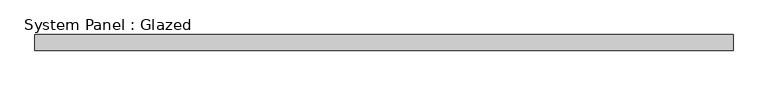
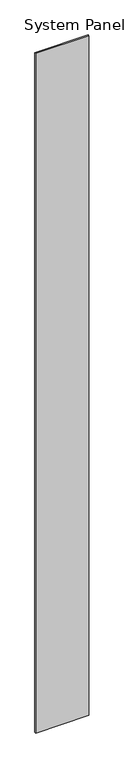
"""IFC4 building model written with IfcOpenShell, lengths in millimetres: plate geometry, System Panel : Glazed."""

import ifcopenshell
import ifcopenshell.guid

model = None  # the IFC model being written
_history = None  # IfcOwnerHistory: only IFC2X3 demands one
_inside = {}  # id of a spatial element -> (the spatial element, [elements in it])
_under = {}  # id of a project, library or spatial element -> (it, [spatial elements below it])
_declared = {}  # id of a project -> (the project, [libraries it declares])
_typed = {}  # id of a type object -> (the type object, [elements of that type])
_made_of = {}  # id of a material, layer set ... -> (it, [elements and type objects made of it])


def new_model(schema):
    """Start an empty IFC model of exactly this schema.

    Asked for "IFC4X3", IfcOpenShell would pick the latest addendum, in which some entities
    have other attributes; the version numbers below select the first issue.
    IFC2X3 requires an IfcOwnerHistory on every rooted entity: one is made here for all.
    """
    global model, _history
    if schema == "IFC4X3":
        model = ifcopenshell.file(schema_version=(4, 3, 0, 0))
    else:
        model = ifcopenshell.file(schema=schema)
    _inside.clear()
    _under.clear()
    _declared.clear()
    _typed.clear()
    _made_of.clear()
    _history = None
    if model.schema == "IFC2X3":
        org = make("IfcOrganization", Name="unknown")
        user = make(
            "IfcPersonAndOrganization",
            ThePerson=make("IfcPerson", FamilyName="unknown"),
            TheOrganization=org,
        )
        app = make(
            "IfcApplication",
            ApplicationDeveloper=org,
            Version="unknown",
            ApplicationFullName="unknown",
            ApplicationIdentifier="unknown",
        )
        _history = make(
            "IfcOwnerHistory",
            OwningUser=user,
            OwningApplication=app,
            ChangeAction="ADDED",
            CreationDate=0,
        )
    return model


def make(cls, **values):
    """One entity of the class cls with the attributes given. An attribute that is None is left unset."""
    return model.create_entity(
        cls, **{name: value for name, value in values.items() if value is not None}
    )


def rooted(cls, **values):
    """An entity with a GlobalId (a new one), such as an element, a storey or a relation."""
    return make(cls, GlobalId=ifcopenshell.guid.new(), OwnerHistory=_history, **values)


def si_unit(unit_type, name, prefix=None):
    """IfcSIUnit, for example si_unit("LENGTHUNIT", "METRE", prefix="MILLI")."""
    return make("IfcSIUnit", UnitType=unit_type, Prefix=prefix, Name=name)


def assignment(units):
    """IfcUnitAssignment: the units of a project."""
    return None if units is None else make("IfcUnitAssignment", Units=units)


def point(xyz):
    """IfcCartesianPoint."""
    return None if xyz is None else make("IfcCartesianPoint", Coordinates=xyz)


def direction(xyz):
    """IfcDirection."""
    return None if xyz is None else make("IfcDirection", DirectionRatios=xyz)


def frame(location, z_axis=None, x_axis=None):
    """IfcAxis2Placement3D, a coordinate frame: its origin and axes. An axis left out is left unset."""
    return make(
        "IfcAxis2Placement3D",
        Location=point(location),
        Axis=direction(z_axis),
        RefDirection=direction(x_axis),
    )


def origin():
    """The frame at (0, 0, 0) with its axes left unset."""
    return frame((0.0, 0.0, 0.0))


def origin_with_axes():
    """The frame at (0, 0, 0) with the z axis (0, 0, 1) and the x axis (1, 0, 0) written out."""
    return frame((0.0, 0.0, 0.0), z_axis=(0.0, 0.0, 1.0), x_axis=(1.0, 0.0, 0.0))


def place(relative_to, where):
    """IfcLocalPlacement: puts the frame where relative to a parent placement (None: the world)."""
    return make(
        "IfcLocalPlacement", PlacementRelTo=relative_to, RelativePlacement=where
    )


def context(
    kind, dimensions, precision=None, world=None, true_north=None, identifier=None
):
    """IfcGeometricRepresentationContext, for example the 3D "Model" context."""
    return make(
        "IfcGeometricRepresentationContext",
        ContextIdentifier=identifier,
        ContextType=kind,
        CoordinateSpaceDimension=dimensions,
        Precision=precision,
        WorldCoordinateSystem=world,
        TrueNorth=true_north,
    )


def project(units=None, contexts=None):
    """IfcProject with its units and contexts."""
    return rooted(
        "IfcProject",
        Name="project",
        RepresentationContexts=contexts,
        UnitsInContext=assignment(units),
    )


def spatial(cls, under=None, at=None, **own):
    """A site, building, storey or space (cls), placed at a placement, below another one or the project."""
    s = rooted(cls, ObjectPlacement=at, **own)
    if under is not None:
        _under.setdefault(under.id(), (under, []))[1].append(s)
    return s


def polyline(points):
    """IfcPolyline through the points."""
    return make("IfcPolyline", Points=[point(p) for p in points])


def outline(outer, holes=None, kind="AREA"):
    """IfcArbitraryClosedProfileDef: a profile drawn as a closed curve; with holes, ...WithVoids."""
    if holes is None:
        return make("IfcArbitraryClosedProfileDef", ProfileType=kind, OuterCurve=outer)
    return make(
        "IfcArbitraryProfileDefWithVoids",
        ProfileType=kind,
        OuterCurve=outer,
        InnerCurves=holes,
    )


def extrude(swept, where, along, depth):
    """IfcExtrudedAreaSolid: the profile swept, set in the frame where, extruded along a direction by depth."""
    return make(
        "IfcExtrudedAreaSolid",
        SweptArea=swept,
        Position=where,
        ExtrudedDirection=direction(along),
        Depth=depth,
    )


def shape(context_of_items, identifier, shape_type, items):
    """IfcShapeRepresentation: the items that make up one representation, for example the "Body"."""
    return make(
        "IfcShapeRepresentation",
        ContextOfItems=context_of_items,
        RepresentationIdentifier=identifier,
        RepresentationType=shape_type,
        Items=items,
    )


def source(mapping_origin, context_of_items, identifier, shape_type, items):
    """IfcRepresentationMap: a shape defined once, which mapped items show again and again."""
    return make(
        "IfcRepresentationMap",
        MappingOrigin=mapping_origin,
        MappedRepresentation=shape(context_of_items, identifier, shape_type, items),
    )


def transform(
    local_origin,
    x_axis=None,
    y_axis=None,
    z_axis=None,
    scale=None,
    scale2=None,
    scale3=None,
    uniform=True,
):
    """IfcCartesianTransformationOperator3D, or its non-uniform kind. x_axis, y_axis, z_axis: its Axis1, 2, 3."""
    if uniform:
        return make(
            "IfcCartesianTransformationOperator3D",
            Axis1=direction(x_axis),
            Axis2=direction(y_axis),
            LocalOrigin=point(local_origin),
            Scale=scale,
            Axis3=direction(z_axis),
        )
    return make(
        "IfcCartesianTransformationOperator3DnonUniform",
        Axis1=direction(x_axis),
        Axis2=direction(y_axis),
        LocalOrigin=point(local_origin),
        Scale=scale,
        Axis3=direction(z_axis),
        Scale2=scale2,
        Scale3=scale3,
    )


def mapped(mapping_source, mapping_target):
    """IfcMappedItem: shows the shape of a source again, moved by a transform."""
    return make(
        "IfcMappedItem", MappingSource=mapping_source, MappingTarget=mapping_target
    )


def made_of(thing, what):
    """Note that an element or type object is made of a material, layer set ...; save() writes the relation."""
    if what is not None:
        _made_of.setdefault(what.id(), (what, []))[1].append(thing)
    return thing


def element(
    cls,
    number,
    at=None,
    inside=None,
    cuts=None,
    type_object=None,
    material=None,
    context=None,
    identifier="Body",
    shape_type=None,
    held_by="IfcProductDefinitionShape",
    body=None,
    shapes=None,
    **own,
):
    """One element of the class cls, such as IfcWall. Its Tag is "e" and its number.

    at: its placement. inside: the storey or other place that contains it. cuts: it is an
    opening in that element (IfcRelVoidsElement). A single representation is given by context,
    identifier, shape_type and body (its items); several are given by shapes. held_by: the class
    of the entity that holds the representations. save() writes the other relations.
    """
    e = rooted(cls, Tag="e%d" % number, ObjectPlacement=at, **own)
    if body is not None:
        shapes = [shape(context, identifier, shape_type, body)]
    if shapes is not None:
        e.Representation = make(held_by, Representations=shapes)
    if inside is not None:
        _inside.setdefault(inside.id(), (inside, []))[1].append(e)
    if cuts is not None:
        rooted(
            "IfcRelVoidsElement", RelatingBuildingElement=cuts, RelatedOpeningElement=e
        )
    if type_object is not None:
        _typed.setdefault(type_object.id(), (type_object, []))[1].append(e)
    return made_of(e, material)


def aggregate(whole, parts):
    """IfcRelAggregates: a whole, such as a stair, and the parts it consists of."""
    return rooted("IfcRelAggregates", RelatingObject=whole, RelatedObjects=parts)


def save(model, path):
    """Write the relations noted so far, then the file.

    IfcRelAggregates (storeys below a building ...), IfcRelContainedInSpatialStructure (elements
    in a storey), IfcRelDefinesByType, IfcRelAssociatesMaterial and IfcRelDeclares: one each for
    every whole, place, type object, material and project.
    """
    for whole, parts in _under.values():
        aggregate(whole, parts)
    for where, things in _inside.values():
        rooted(
            "IfcRelContainedInSpatialStructure",
            RelatedElements=things,
            RelatingStructure=where,
        )
    for kind, things in _typed.values():
        rooted("IfcRelDefinesByType", RelatedObjects=things, RelatingType=kind)
    for what, things in _made_of.values():
        rooted("IfcRelAssociatesMaterial", RelatedObjects=things, RelatingMaterial=what)
    for by, libraries in _declared.values():
        rooted("IfcRelDeclares", RelatingContext=by, RelatedDefinitions=libraries)
    model.write(path)


def system_panel_glazed_21f2c726(model_context):
    return source(origin(), model_context, "Body", "SweptSolid", [
        extrude(outline(polyline([(553.4450969, 19.05), (-553.4450969, 19.05), (-553.4450969, 44.45), (553.4450969, 44.45), (553.4450969, 19.05)])), origin_with_axes(), (0.0, 0.0, 1.0), 14960.6),
    ])


if __name__ == "__main__":
    model = new_model("IFC4")
    model_context = context("Model", 3, world=origin())
    ifc_project = project(units=[si_unit("LENGTHUNIT", "METRE", prefix="MILLI")], contexts=[model_context])
    site = spatial("IfcSite", under=ifc_project)
    building = spatial("IfcBuilding", under=site)
    placement = place(None, origin())
    system_panel_glazed_shape = system_panel_glazed_21f2c726(model_context)
    element("IfcPlate", 1, ObjectType="System Panel : Glazed", at=placement, inside=building, context=model_context, shape_type="MappedRepresentation", body=[
        mapped(system_panel_glazed_shape, transform((0.0, 0.0, 0.0), x_axis=(1.0, 0.0, 0.0), y_axis=(0.0, 1.0, 0.0), z_axis=(0.0, 0.0, 1.0))),
    ])
    save(model, "model.ifc")
